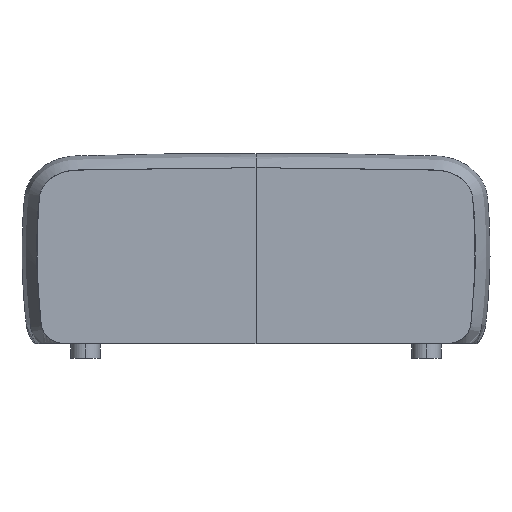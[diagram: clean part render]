
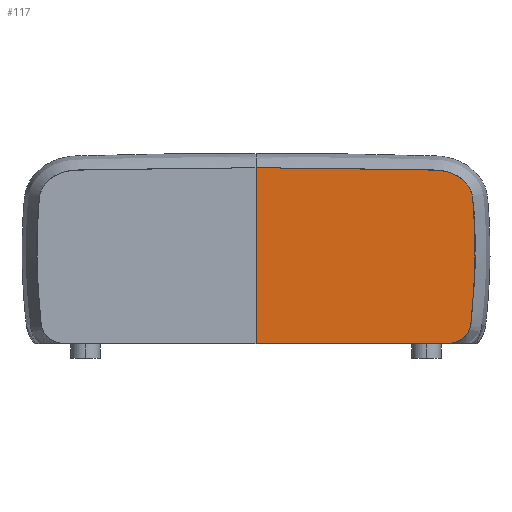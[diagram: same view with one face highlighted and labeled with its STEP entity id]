
A CAD part, left-side view. The second image highlights one B-rep face of the part: STEP entity #117.
In plain terms, the highlighted planar face has unit normal (-1, 0, 0).
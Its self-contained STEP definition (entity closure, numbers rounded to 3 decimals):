
#117=ADVANCED_FACE('',(#149),#465,.T.);
#149=FACE_OUTER_BOUND('',#181,.T.);
#181=EDGE_LOOP('',(#241,#242,#243));
#241=ORIENTED_EDGE('',*,*,#333,.T.);
#242=ORIENTED_EDGE('',*,*,#332,.F.);
#243=ORIENTED_EDGE('',*,*,#334,.F.);
#332=EDGE_CURVE('',#439,#441,#401,.T.);
#333=EDGE_CURVE('',#440,#441,#402,.T.);
#334=EDGE_CURVE('',#440,#439,#403,.T.);
#401=B_SPLINE_CURVE_WITH_KNOTS('',3,(#15935,#15936,#15937,#15938),
 .UNSPECIFIED.,.F.,.F.,(4,4),(-3914.824,-3548.363),
 .UNSPECIFIED.);
#402=B_SPLINE_CURVE_WITH_KNOTS('',1,(#15939,#15940),.UNSPECIFIED.,.F.,.F.,
(2,2),(-551.95,-189.685),.UNSPECIFIED.);
#403=B_SPLINE_CURVE_WITH_KNOTS('',3,(#15941,#15942,#15943,#15944,#15945,
#15946,#15947,#15948,#15949,#15950,#15951,#15952,#15953,#15954,#15955,#15956,
#15957,#15958,#15959,#15960,#15961),.UNSPECIFIED.,.F.,.F.,(4,1,1,1,1,1,
1,1,1,1,1,1,1,1,1,1,1,1,4),(-2131.795,-2085.196,-2027.551,
-1969.906,-1912.262,-1854.617,-1796.973,
-1739.328,-1681.683,-1624.039,-1566.394,-1508.75,
-1451.105,-1393.461,-1335.816,-1278.171,
-1220.527,-1162.882,-1105.238),.UNSPECIFIED.);
#439=VERTEX_POINT('',#15931);
#440=VERTEX_POINT('',#15932);
#441=VERTEX_POINT('',#15933);
#465=PLANE('',#501);
#501=AXIS2_PLACEMENT_3D('',#15929,#522,$);
#522=DIRECTION('',(-1.,0.,0.));
#15929=CARTESIAN_POINT('',(44753.904,-15986.04,-14.975));
#15931=CARTESIAN_POINT('',(44753.904,-15911.694,-11.264));
#15932=CARTESIAN_POINT('',(44753.904,-15526.817,349.988));
#15933=CARTESIAN_POINT('',(44753.904,-15526.817,-11.264));
#15935=CARTESIAN_POINT('',(44753.904,-15911.694,-11.264));
#15936=CARTESIAN_POINT('',(44753.904,-15783.402,-11.264));
#15937=CARTESIAN_POINT('',(44753.904,-15655.109,-11.264));
#15938=CARTESIAN_POINT('',(44753.904,-15526.817,-11.264));
#15939=CARTESIAN_POINT('',(44753.904,-15526.817,349.988));
#15940=CARTESIAN_POINT('',(44753.904,-15526.817,-11.264));
#15941=CARTESIAN_POINT('',(44753.904,-15526.817,349.988));
#15942=CARTESIAN_POINT('',(44753.904,-15577.043,350.296));
#15943=CARTESIAN_POINT('',(44753.904,-15670.74,350.189));
#15944=CARTESIAN_POINT('',(44753.904,-15774.086,348.452));
#15945=CARTESIAN_POINT('',(44753.904,-15870.48,345.57));
#15946=CARTESIAN_POINT('',(44753.904,-15892.829,345.547));
#15947=CARTESIAN_POINT('',(44753.904,-15906.523,344.75));
#15948=CARTESIAN_POINT('',(44753.904,-15925.906,340.385));
#15949=CARTESIAN_POINT('',(44753.904,-15943.496,331.498));
#15950=CARTESIAN_POINT('',(44753.904,-15961.907,316.367));
#15951=CARTESIAN_POINT('',(44753.904,-15970.907,295.436));
#15952=CARTESIAN_POINT('',(44753.904,-15971.176,289.607));
#15953=CARTESIAN_POINT('',(44753.904,-15973.989,270.522));
#15954=CARTESIAN_POINT('',(44753.904,-15978.284,169.422));
#15955=CARTESIAN_POINT('',(44753.904,-15973.778,83.998));
#15956=CARTESIAN_POINT('',(44753.904,-15968.23,31.081));
#15957=CARTESIAN_POINT('',(44753.904,-15966.668,21.1));
#15958=CARTESIAN_POINT('',(44753.904,-15957.973,3.502));
#15959=CARTESIAN_POINT('',(44753.904,-15937.001,-9.551));
#15960=CARTESIAN_POINT('',(44753.904,-15922.274,-11.359));
#15961=CARTESIAN_POINT('',(44753.904,-15911.694,-11.264));
